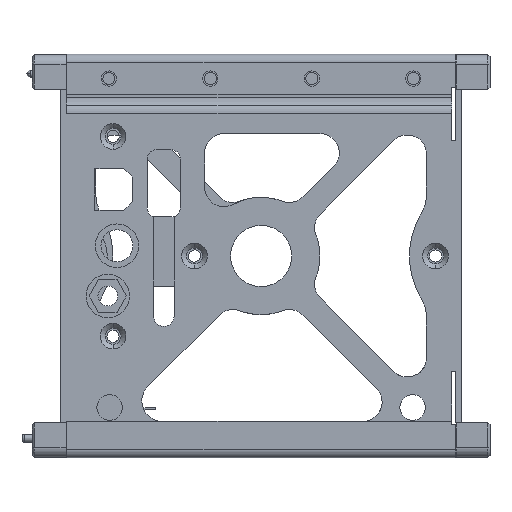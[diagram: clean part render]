
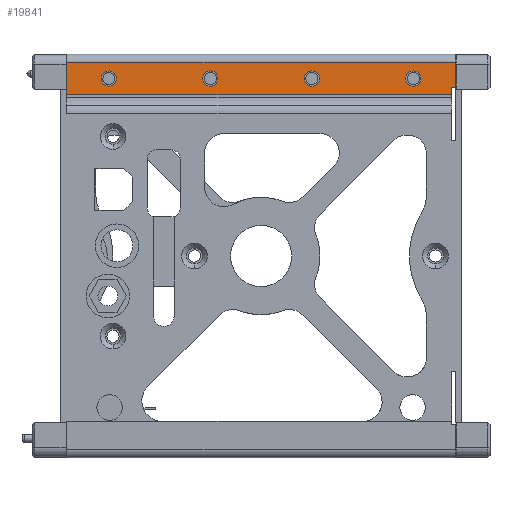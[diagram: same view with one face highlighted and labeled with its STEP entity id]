
A CAD part, left-side view. The second image highlights one B-rep face of the part: STEP entity #19841.
In plain terms, the highlighted planar face has unit normal (-1, 0, 0).
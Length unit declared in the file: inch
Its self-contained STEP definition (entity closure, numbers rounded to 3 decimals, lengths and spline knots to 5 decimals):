
#593 = AXIS2_PLACEMENT_3D ( 'NONE', #16836, #56860, #22526 ) ;
#2020 = DIRECTION ( 'NONE',  ( 0., 0., 1. ) ) ;
#2112 = CARTESIAN_POINT ( 'NONE',  ( -1.9695, 1.89866, 1.8885 ) ) ;
#3352 = VERTEX_POINT ( 'NONE', #29789 ) ;
#3714 = CARTESIAN_POINT ( 'NONE',  ( -1.9695, 1.54816, 1.7728 ) ) ;
#3727 = VERTEX_POINT ( 'NONE', #27679 ) ;
#4424 = LINE ( 'NONE', #52806, #17907 ) ;
#7599 = FACE_BOUND ( 'NONE', #26867, .T. ) ;
#7648 = CARTESIAN_POINT ( 'NONE',  ( -1.9695, -1.48622, 1.73228 ) ) ;
#7939 = DIRECTION ( 'NONE',  ( 0., 0., -1. ) ) ;
#8305 = EDGE_CURVE ( 'NONE', #67995, #40562, #27498, .T. ) ;
#8307 = ORIENTED_EDGE ( 'NONE', *, *, #67023, .F. ) ;
#9104 = EDGE_LOOP ( 'NONE', ( #68045, #44370 ) ) ;
#9234 = DIRECTION ( 'NONE',  ( -1., 0., 0. ) ) ;
#9382 = FACE_BOUND ( 'NONE', #21509, .T. ) ;
#10565 = ORIENTED_EDGE ( 'NONE', *, *, #53793, .T. ) ;
#11761 = VERTEX_POINT ( 'NONE', #11993 ) ;
#11862 = AXIS2_PLACEMENT_3D ( 'NONE', #52546, #18244, #58311 ) ;
#11960 = CIRCLE ( 'NONE', #11862, 0.07402 ) ;
#11993 = CARTESIAN_POINT ( 'NONE',  ( -1.9695, -1.89866, 1.6435 ) ) ;
#12549 = CARTESIAN_POINT ( 'NONE',  ( -1.9695, -1.48622, 1.65827 ) ) ;
#13410 = DIRECTION ( 'NONE',  ( 0., 0., 1. ) ) ;
#13923 = CARTESIAN_POINT ( 'NONE',  ( -1.9695, -0.49541, 1.73228 ) ) ;
#14168 = AXIS2_PLACEMENT_3D ( 'NONE', #50379, #16091, #56131 ) ;
#15260 = ORIENTED_EDGE ( 'NONE', *, *, #68003, .T. ) ;
#15652 = VECTOR ( 'NONE', #7939, 39.37008 ) ;
#16091 = DIRECTION ( 'NONE',  ( 1., 0., 0. ) ) ;
#16566 = LINE ( 'NONE', #44060, #29992 ) ;
#16836 = CARTESIAN_POINT ( 'NONE',  ( -1.9695, 0.49541, 1.73228 ) ) ;
#17807 = CIRCLE ( 'NONE', #58815, 0.07402 ) ;
#17907 = VECTOR ( 'NONE', #24207, 39.37008 ) ;
#18244 = DIRECTION ( 'NONE',  ( -1., 0., 0. ) ) ;
#18484 = VERTEX_POINT ( 'NONE', #38347 ) ;
#19672 = DIRECTION ( 'NONE',  ( 0., 0., 1. ) ) ;
#19841 = ADVANCED_FACE ( 'NONE', ( #22774, #7599, #9382, #66757, #51491 ), #58919, .T. ) ;
#20195 = VERTEX_POINT ( 'NONE', #28786 ) ;
#21509 = EDGE_LOOP ( 'NONE', ( #69582, #57669 ) ) ;
#22526 = DIRECTION ( 'NONE',  ( 0., 0., 1. ) ) ;
#22774 = FACE_BOUND ( 'NONE', #49319, .T. ) ;
#23805 = LINE ( 'NONE', #33042, #39072 ) ;
#24207 = DIRECTION ( 'NONE',  ( 0., 1., 0. ) ) ;
#26249 = EDGE_CURVE ( 'NONE', #18484, #3727, #11960, .T. ) ;
#26426 = CARTESIAN_POINT ( 'NONE',  ( -1.9695, 1.89866, 1.5748 ) ) ;
#26841 = ORIENTED_EDGE ( 'NONE', *, *, #58504, .T. ) ;
#26867 = EDGE_LOOP ( 'NONE', ( #15260, #46006 ) ) ;
#26908 = CARTESIAN_POINT ( 'NONE',  ( -1.9695, -1.48622, 1.73228 ) ) ;
#27149 = ORIENTED_EDGE ( 'NONE', *, *, #42893, .T. ) ;
#27208 = AXIS2_PLACEMENT_3D ( 'NONE', #70796, #36379, #2020 ) ;
#27295 = CARTESIAN_POINT ( 'NONE',  ( -1.9695, -1.85866, 1.6435 ) ) ;
#27498 = LINE ( 'NONE', #67068, #56205 ) ;
#27679 = CARTESIAN_POINT ( 'NONE',  ( -1.9695, 0.49541, 1.65827 ) ) ;
#28473 = VERTEX_POINT ( 'NONE', #35435 ) ;
#28786 = CARTESIAN_POINT ( 'NONE',  ( -1.9695, -0.49541, 1.8063 ) ) ;
#29631 = CARTESIAN_POINT ( 'NONE',  ( -1.9695, -1.89866, 1.8885 ) ) ;
#29644 = ORIENTED_EDGE ( 'NONE', *, *, #47913, .T. ) ;
#29789 = CARTESIAN_POINT ( 'NONE',  ( -1.9695, 1.42428, 1.69177 ) ) ;
#29992 = VECTOR ( 'NONE', #49780, 39.37008 ) ;
#30076 = AXIS2_PLACEMENT_3D ( 'NONE', #26908, #67042, #32700 ) ;
#30297 = CARTESIAN_POINT ( 'NONE',  ( -1.9695, -1.85866, 1.5748 ) ) ;
#32700 = DIRECTION ( 'NONE',  ( 0., 0., 1. ) ) ;
#33042 = CARTESIAN_POINT ( 'NONE',  ( -1.9695, 2.42974, 1.5748 ) ) ;
#33581 = CARTESIAN_POINT ( 'NONE',  ( -1.9695, 1.48622, 1.73228 ) ) ;
#35435 = CARTESIAN_POINT ( 'NONE',  ( -1.9695, 1.89866, 1.8885 ) ) ;
#35457 = EDGE_LOOP ( 'NONE', ( #63372, #48111, #70898, #8307, #27149, #26841 ) ) ;
#35832 = EDGE_CURVE ( 'NONE', #45318, #3352, #70326, .T. ) ;
#36379 = DIRECTION ( 'NONE',  ( -1., 0., 0. ) ) ;
#38347 = CARTESIAN_POINT ( 'NONE',  ( -1.9695, 0.49541, 1.8063 ) ) ;
#39072 = VECTOR ( 'NONE', #67377, 39.37008 ) ;
#39334 = DIRECTION ( 'NONE',  ( 0., 0., 1. ) ) ;
#40431 = CIRCLE ( 'NONE', #30076, 0.07402 ) ;
#40562 = VERTEX_POINT ( 'NONE', #30297 ) ;
#42893 = EDGE_CURVE ( 'NONE', #28473, #45853, #61341, .T. ) ;
#43327 = CIRCLE ( 'NONE', #62438, 0.07402 ) ;
#43567 = CARTESIAN_POINT ( 'NONE',  ( -1.9695, 1.48622, 1.73228 ) ) ;
#44060 = CARTESIAN_POINT ( 'NONE',  ( -1.9695, 2.42974, 1.8885 ) ) ;
#44370 = ORIENTED_EDGE ( 'NONE', *, *, #59748, .F. ) ;
#44574 = LINE ( 'NONE', #29631, #73340 ) ;
#45318 = VERTEX_POINT ( 'NONE', #3714 ) ;
#45853 = VERTEX_POINT ( 'NONE', #26426 ) ;
#45985 = CIRCLE ( 'NONE', #14168, 0.07402 ) ;
#46006 = ORIENTED_EDGE ( 'NONE', *, *, #73048, .T. ) ;
#46369 = CIRCLE ( 'NONE', #46677, 0.07402 ) ;
#46677 = AXIS2_PLACEMENT_3D ( 'NONE', #33581, #73771, #39334 ) ;
#47766 = DIRECTION ( 'NONE',  ( 1., 0., 0. ) ) ;
#47913 = EDGE_CURVE ( 'NONE', #72349, #51126, #17807, .T. ) ;
#48111 = ORIENTED_EDGE ( 'NONE', *, *, #62106, .F. ) ;
#49308 = DIRECTION ( 'NONE',  ( 0., 0., 1. ) ) ;
#49319 = EDGE_LOOP ( 'NONE', ( #10565, #29644 ) ) ;
#49780 = DIRECTION ( 'NONE',  ( 0., -1., 0. ) ) ;
#50379 = CARTESIAN_POINT ( 'NONE',  ( -1.9695, -0.49541, 1.73228 ) ) ;
#51126 = VERTEX_POINT ( 'NONE', #51372 ) ;
#51372 = CARTESIAN_POINT ( 'NONE',  ( -1.9695, -1.48622, 1.8063 ) ) ;
#51491 = FACE_OUTER_BOUND ( 'NONE', #35457, .T. ) ;
#52546 = CARTESIAN_POINT ( 'NONE',  ( -1.9695, 0.49541, 1.73228 ) ) ;
#52806 = CARTESIAN_POINT ( 'NONE',  ( -1.9695, -1.89866, 1.6435 ) ) ;
#53793 = EDGE_CURVE ( 'NONE', #51126, #72349, #40431, .T. ) ;
#53967 = DIRECTION ( 'NONE',  ( 1., 0., 0. ) ) ;
#56131 = DIRECTION ( 'NONE',  ( 0., 0., 1. ) ) ;
#56205 = VECTOR ( 'NONE', #61280, 39.37008 ) ;
#56440 = EDGE_CURVE ( 'NONE', #65638, #11761, #44574, .T. ) ;
#56860 = DIRECTION ( 'NONE',  ( -1., 0., 0. ) ) ;
#57669 = ORIENTED_EDGE ( 'NONE', *, *, #58076, .F. ) ;
#58076 = EDGE_CURVE ( 'NONE', #3352, #45318, #46369, .T. ) ;
#58311 = DIRECTION ( 'NONE',  ( 0., 0., 1. ) ) ;
#58504 = EDGE_CURVE ( 'NONE', #45853, #40562, #23805, .T. ) ;
#58815 = AXIS2_PLACEMENT_3D ( 'NONE', #7648, #47766, #13410 ) ;
#58919 = PLANE ( 'NONE',  #27208 ) ;
#59561 = CIRCLE ( 'NONE', #593, 0.07402 ) ;
#59748 = EDGE_CURVE ( 'NONE', #3727, #18484, #59561, .T. ) ;
#61280 = DIRECTION ( 'NONE',  ( 0., 0., -1. ) ) ;
#61341 = LINE ( 'NONE', #2112, #15652 ) ;
#61724 = VERTEX_POINT ( 'NONE', #66408 ) ;
#62106 = EDGE_CURVE ( 'NONE', #11761, #67995, #4424, .T. ) ;
#62438 = AXIS2_PLACEMENT_3D ( 'NONE', #13923, #53967, #19672 ) ;
#63372 = ORIENTED_EDGE ( 'NONE', *, *, #8305, .F. ) ;
#63979 = DIRECTION ( 'NONE',  ( 0., 0., -1. ) ) ;
#64338 = AXIS2_PLACEMENT_3D ( 'NONE', #43567, #9234, #49308 ) ;
#65638 = VERTEX_POINT ( 'NONE', #70136 ) ;
#66408 = CARTESIAN_POINT ( 'NONE',  ( -1.9695, -0.49541, 1.65827 ) ) ;
#66757 = FACE_BOUND ( 'NONE', #9104, .T. ) ;
#67023 = EDGE_CURVE ( 'NONE', #28473, #65638, #16566, .T. ) ;
#67042 = DIRECTION ( 'NONE',  ( 1., 0., 0. ) ) ;
#67068 = CARTESIAN_POINT ( 'NONE',  ( -1.9695, -1.85866, 1.6435 ) ) ;
#67377 = DIRECTION ( 'NONE',  ( 0., -1., 0. ) ) ;
#67995 = VERTEX_POINT ( 'NONE', #27295 ) ;
#68003 = EDGE_CURVE ( 'NONE', #20195, #61724, #45985, .T. ) ;
#68045 = ORIENTED_EDGE ( 'NONE', *, *, #26249, .F. ) ;
#69582 = ORIENTED_EDGE ( 'NONE', *, *, #35832, .F. ) ;
#70136 = CARTESIAN_POINT ( 'NONE',  ( -1.9695, -1.89866, 1.8885 ) ) ;
#70326 = CIRCLE ( 'NONE', #64338, 0.07402 ) ;
#70796 = CARTESIAN_POINT ( 'NONE',  ( -1.9695, 2.42974, 1.8885 ) ) ;
#70898 = ORIENTED_EDGE ( 'NONE', *, *, #56440, .F. ) ;
#72349 = VERTEX_POINT ( 'NONE', #12549 ) ;
#73048 = EDGE_CURVE ( 'NONE', #61724, #20195, #43327, .T. ) ;
#73340 = VECTOR ( 'NONE', #63979, 39.37008 ) ;
#73771 = DIRECTION ( 'NONE',  ( -1., 0., 0. ) ) ;
